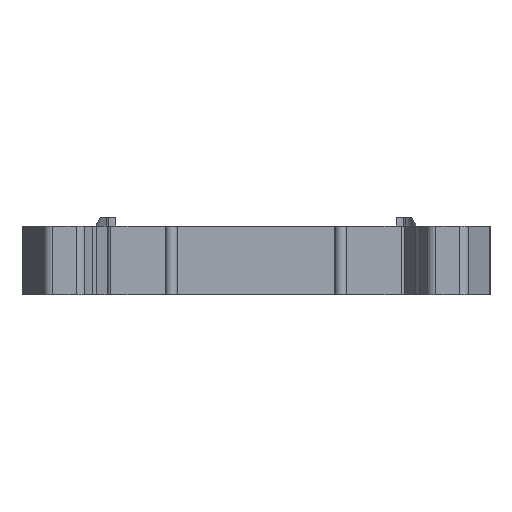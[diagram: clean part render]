
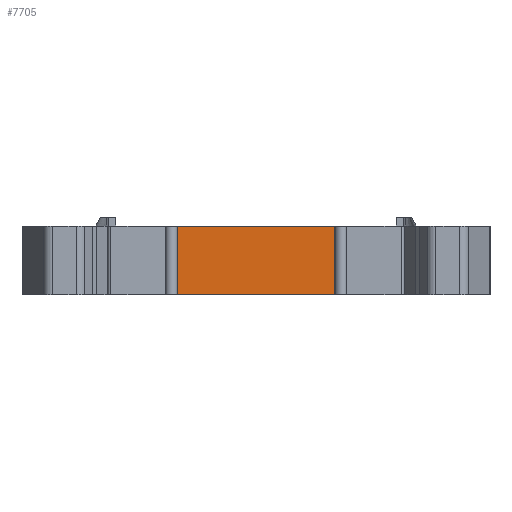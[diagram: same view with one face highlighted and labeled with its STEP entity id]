
A CAD part, front view. The second image highlights one B-rep face of the part: STEP entity #7705.
In plain terms, the highlighted planar face has unit normal (0, -1, 0).
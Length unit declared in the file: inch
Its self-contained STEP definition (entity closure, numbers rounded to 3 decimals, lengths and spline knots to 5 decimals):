
#232=DIRECTION('',(-1.,0.,0.));
#233=VECTOR('',#232,0.63386);
#234=CARTESIAN_POINT('',(0.31693,-1.61811,
-0.1378));
#235=LINE('',#234,#233);
#648=DIRECTION('',(-1.,0.,0.));
#649=VECTOR('',#648,0.63386);
#650=CARTESIAN_POINT('',(0.31693,-1.61811,
0.1378));
#651=LINE('',#650,#649);
#1634=DIRECTION('',(0.,0.,1.));
#1635=VECTOR('',#1634,0.27559);
#1636=CARTESIAN_POINT('',(0.31693,-1.61811,
-0.1378));
#1637=LINE('',#1636,#1635);
#1638=DIRECTION('',(0.,0.,1.));
#1639=VECTOR('',#1638,0.27559);
#1640=CARTESIAN_POINT('',(-0.31693,-1.61811,
-0.1378));
#1641=LINE('',#1640,#1639);
#6132=CARTESIAN_POINT('',(0.31693,-1.61811,
-0.1378));
#6133=CARTESIAN_POINT('',(0.31693,-1.61811,
0.1378));
#6134=VERTEX_POINT('',#6132);
#6135=VERTEX_POINT('',#6133);
#6144=CARTESIAN_POINT('',(-0.31693,-1.61811,
-0.1378));
#6145=CARTESIAN_POINT('',(-0.31693,-1.61811,
0.1378));
#6146=VERTEX_POINT('',#6144);
#6147=VERTEX_POINT('',#6145);
#7692=CARTESIAN_POINT('',(0.60311,-1.61811,
-0.16535));
#7693=DIRECTION('',(0.,1.,0.));
#7694=DIRECTION('',(-1.,0.,0.));
#7695=AXIS2_PLACEMENT_3D('',#7692,#7693,#7694);
#7696=PLANE('',#7695);
#7698=ORIENTED_EDGE('',*,*,#7697,.F.);
#7699=ORIENTED_EDGE('',*,*,#6227,.T.);
#7701=ORIENTED_EDGE('',*,*,#7700,.T.);
#7702=ORIENTED_EDGE('',*,*,#6405,.F.);
#7703=EDGE_LOOP('',(#7698,#7699,#7701,#7702));
#7704=FACE_OUTER_BOUND('',#7703,.F.);
#7705=ADVANCED_FACE('',(#7704),#7696,.F.);
#6227=EDGE_CURVE('',#6134,#6146,#235,.T.);
#6405=EDGE_CURVE('',#6135,#6147,#651,.T.);
#7697=EDGE_CURVE('',#6134,#6135,#1637,.T.);
#7700=EDGE_CURVE('',#6146,#6147,#1641,.T.);
